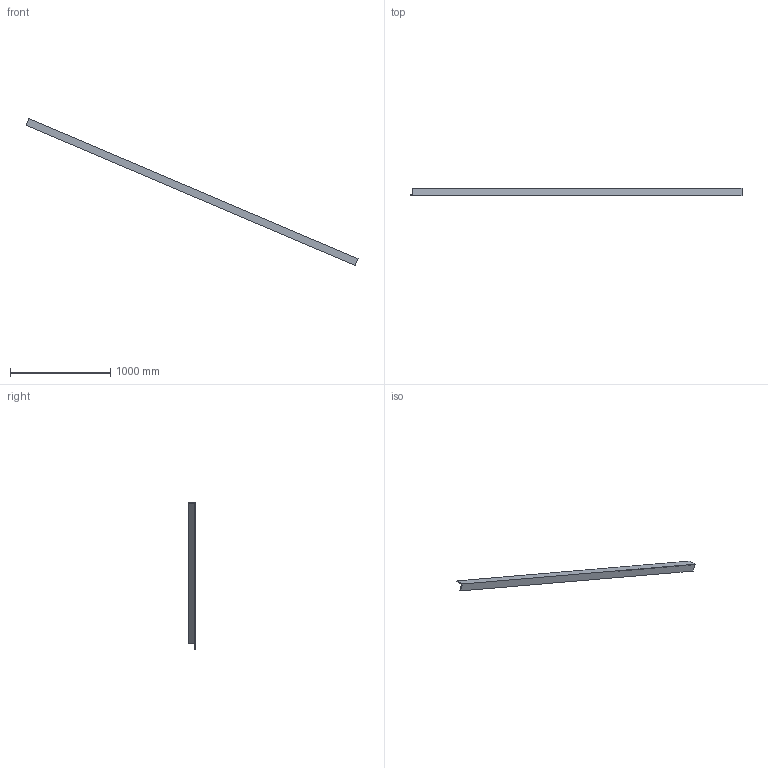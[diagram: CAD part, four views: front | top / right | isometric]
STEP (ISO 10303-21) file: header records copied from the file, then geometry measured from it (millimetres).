
FILE_DESCRIPTION(('Open CASCADE Model'),'2;1');
FILE_NAME('Open CASCADE Shape Model','2026-09-19T12:55:21',('Author'),( 'Open CASCADE'),'Open CASCADE STEP processor 7.9','Open CASCADE 7.9' ,'Unknown');
FILE_SCHEMA(('AUTOMOTIVE_DESIGN { 1 0 10303 214 1 1 1 1 }'));
Length unit declared in the file: millimetre
Products named in the file (1): Open CASCADE STEP translator 7.9 355
Bounding box: 3313.88 x 76.2 x 1470.1 mm (x, y, z)
Volume: 4858310.7 mm3; surface area: 1090847.4 mm2
Topology: 1 solids, 1 shells, 8 faces, 18 edges, 12 vertices
Faces by surface type: plane 8
Entity records: 466 total; most frequent: CARTESIAN_POINT 75, DIRECTION 72, LINE 54, VECTOR 54, ORIENTED_EDGE 36, PCURVE 36, DEFINITIONAL_REPRESENTATION 36, EDGE_CURVE 18
